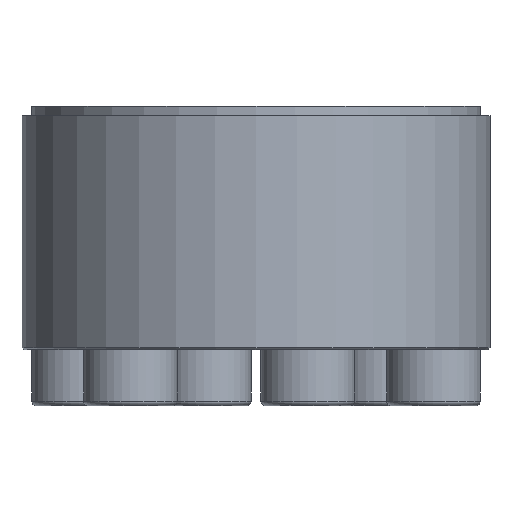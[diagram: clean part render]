
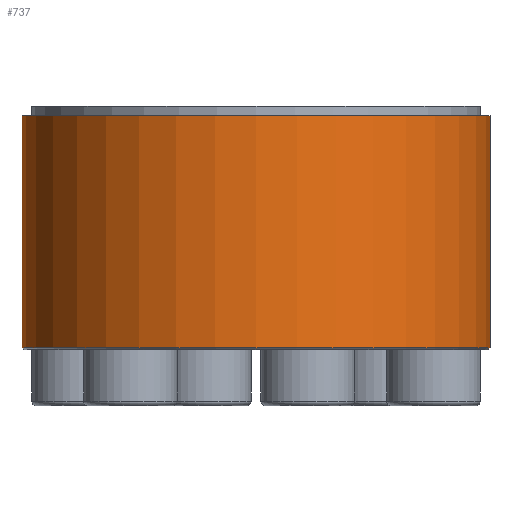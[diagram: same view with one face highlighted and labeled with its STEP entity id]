
A CAD part, front view. The second image highlights one B-rep face of the part: STEP entity #737.
In plain terms, the highlighted cylindrical face has radius 25 mm (diameter 50 mm), a partial arc.
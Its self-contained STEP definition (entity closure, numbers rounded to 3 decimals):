
#8 = EDGE_CURVE ( 'NONE', #2196, #2008, #1962, .T. ) ;
#43 = VERTEX_POINT ( 'NONE', #1241 ) ;
#179 = CIRCLE ( 'NONE', #1253, 25. ) ;
#331 = DIRECTION ( 'NONE',  ( -1., 0., 0. ) ) ;
#404 = LINE ( 'NONE', #464, #721 ) ;
#464 = CARTESIAN_POINT ( 'NONE',  ( -25., 0., 0. ) ) ;
#527 = DIRECTION ( 'NONE',  ( 0., 0., -1. ) ) ;
#697 = CARTESIAN_POINT ( 'NONE',  ( 25., 0., 12. ) ) ;
#703 = ORIENTED_EDGE ( 'NONE', *, *, #1324, .T. ) ;
#721 = VECTOR ( 'NONE', #1260, 1000. ) ;
#737 = ADVANCED_FACE ( 'NONE', ( #1043 ), #2438, .T. ) ;
#960 = ORIENTED_EDGE ( 'NONE', *, *, #1781, .F. ) ;
#1011 = EDGE_CURVE ( 'NONE', #2008, #43, #404, .T. ) ;
#1035 = CARTESIAN_POINT ( 'NONE',  ( 0., 0., 12. ) ) ;
#1043 = FACE_OUTER_BOUND ( 'NONE', #1332, .T. ) ;
#1135 = LINE ( 'NONE', #1140, #2191 ) ;
#1136 = CARTESIAN_POINT ( 'NONE',  ( 25., 0., -12.8 ) ) ;
#1140 = CARTESIAN_POINT ( 'NONE',  ( 25., 0., 0. ) ) ;
#1162 = CARTESIAN_POINT ( 'NONE',  ( 0., 0., -12.8 ) ) ;
#1241 = CARTESIAN_POINT ( 'NONE',  ( -25., 0., -12.8 ) ) ;
#1253 = AXIS2_PLACEMENT_3D ( 'NONE', #1162, #1910, #2325 ) ;
#1260 = DIRECTION ( 'NONE',  ( 0., 0., -1. ) ) ;
#1308 = ORIENTED_EDGE ( 'NONE', *, *, #8, .T. ) ;
#1324 = EDGE_CURVE ( 'NONE', #43, #1536, #179, .T. ) ;
#1332 = EDGE_LOOP ( 'NONE', ( #960, #1308, #1923, #703 ) ) ;
#1536 = VERTEX_POINT ( 'NONE', #1136 ) ;
#1774 = CARTESIAN_POINT ( 'NONE',  ( -25., 0., 12. ) ) ;
#1781 = EDGE_CURVE ( 'NONE', #2196, #1536, #1135, .T. ) ;
#1867 = AXIS2_PLACEMENT_3D ( 'NONE', #2415, #527, #331 ) ;
#1910 = DIRECTION ( 'NONE',  ( 0., 0., 1. ) ) ;
#1923 = ORIENTED_EDGE ( 'NONE', *, *, #1011, .T. ) ;
#1962 = CIRCLE ( 'NONE', #2468, 25. ) ;
#1979 = DIRECTION ( 'NONE',  ( 1., 0., 0. ) ) ;
#2008 = VERTEX_POINT ( 'NONE', #1774 ) ;
#2191 = VECTOR ( 'NONE', #2298, 1000. ) ;
#2196 = VERTEX_POINT ( 'NONE', #697 ) ;
#2205 = DIRECTION ( 'NONE',  ( 0., 0., -1. ) ) ;
#2298 = DIRECTION ( 'NONE',  ( 0., 0., -1. ) ) ;
#2325 = DIRECTION ( 'NONE',  ( -1., 0., 0. ) ) ;
#2415 = CARTESIAN_POINT ( 'NONE',  ( 0., 0., 0. ) ) ;
#2438 = CYLINDRICAL_SURFACE ( 'NONE', #1867, 25. ) ;
#2468 = AXIS2_PLACEMENT_3D ( 'NONE', #1035, #2205, #1979 ) ;
